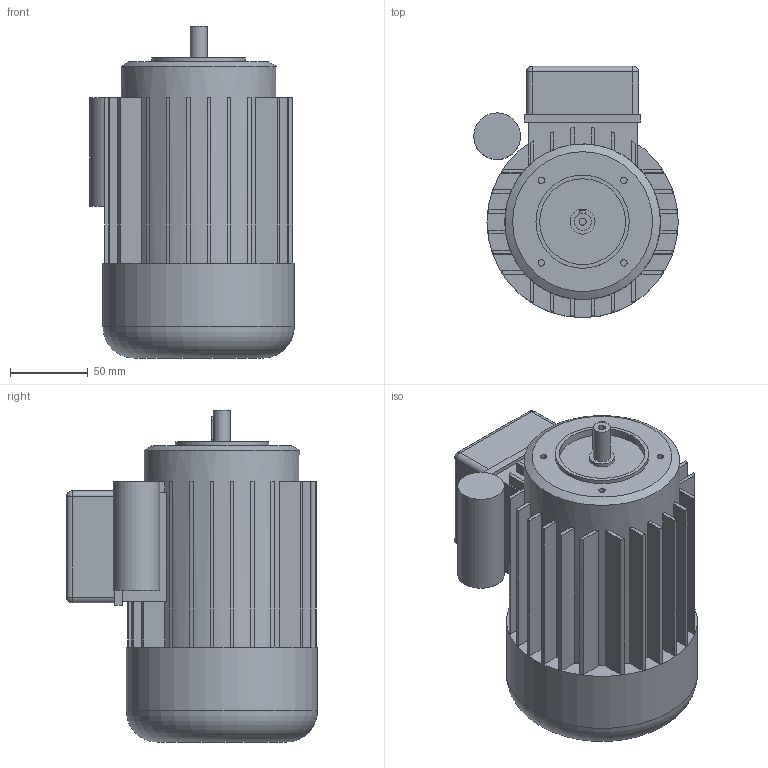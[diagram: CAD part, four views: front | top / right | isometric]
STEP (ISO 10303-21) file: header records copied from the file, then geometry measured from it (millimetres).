
FILE_DESCRIPTION( ( 'Unknown' ), '1' );
FILE_NAME( 'E:/services/configuratordownloads/customers/NERI/M/download/F0EB9C6D8EFCFA40CD97444359F50/STEP/F0EB9C6D8EFCFA40CD97444359F50.3d.stp', 'Unknown', ( 'Unknown' ), ( 'Unknown' ), 'PSStep 10.1', 'Unknown', ' ' );
FILE_SCHEMA( ( 'AUTOMOTIVE_DESIGN { 1 0 10303 214 1 1 1 1 }' ) );
Length unit declared in the file: millimetre
Products named in the file (2): 3601acb6-891c-47a0-b9ca-629117fbf69f
Bounding box: 131.5 x 161.5 x 213.5 mm (x, y, z)
Volume: 2090793.8 mm3; surface area: 162404.4 mm2
Topology: 2 solids, 2 shells, 179 faces, 478 edges, 312 vertices
Faces by surface type: plane 116, cylinder 57, sphere 4, torus 1, cone 1
Full cylindrical faces by diameter (mm): 4.13 x4, 4.52 x1, 11 x1, 16 x1, 30 x1, 55.2 x1, 60 x1, 100 x1, 123 x1
Entity records: 6997 total; most frequent: CARTESIAN_POINT 1005, DIRECTION 982, ORIENTED_EDGE 914, EDGE_CURVE 457, AXIS2_PLACEMENT_3D 346, VERTEX_POINT 309, LINE 290, VECTOR 290
